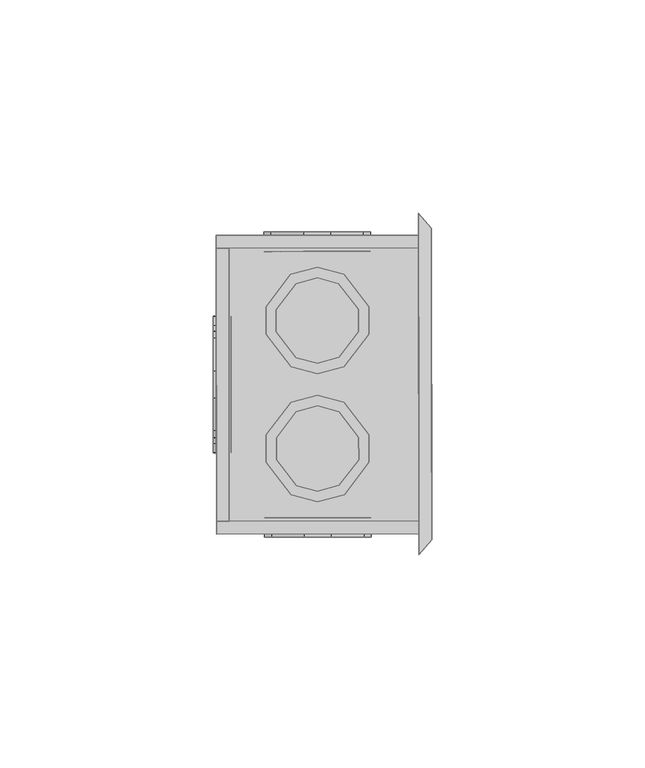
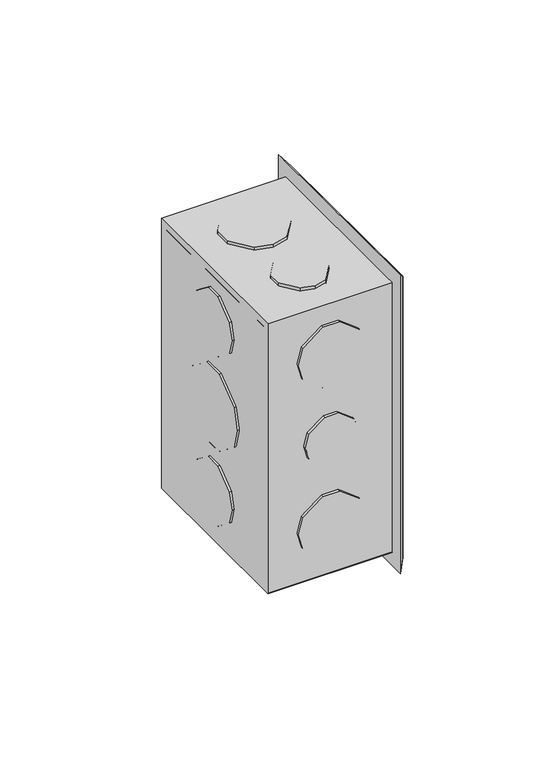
"""IFC4 building model written with IfcOpenShell, lengths in millimetres: proxy geometry,  211169 :  211169."""

import ifcopenshell
import ifcopenshell.guid

model = None  # the IFC model being written
_history = None  # IfcOwnerHistory: only IFC2X3 demands one
_inside = {}  # id of a spatial element -> (the spatial element, [elements in it])
_under = {}  # id of a project, library or spatial element -> (it, [spatial elements below it])
_declared = {}  # id of a project -> (the project, [libraries it declares])
_typed = {}  # id of a type object -> (the type object, [elements of that type])
_made_of = {}  # id of a material, layer set ... -> (it, [elements and type objects made of it])


def new_model(schema):
    """Start an empty IFC model of exactly this schema.

    Asked for "IFC4X3", IfcOpenShell would pick the latest addendum, in which some entities
    have other attributes; the version numbers below select the first issue.
    IFC2X3 requires an IfcOwnerHistory on every rooted entity: one is made here for all.
    """
    global model, _history
    if schema == "IFC4X3":
        model = ifcopenshell.file(schema_version=(4, 3, 0, 0))
    else:
        model = ifcopenshell.file(schema=schema)
    _inside.clear()
    _under.clear()
    _declared.clear()
    _typed.clear()
    _made_of.clear()
    _history = None
    if model.schema == "IFC2X3":
        org = make("IfcOrganization", Name="unknown")
        user = make(
            "IfcPersonAndOrganization",
            ThePerson=make("IfcPerson", FamilyName="unknown"),
            TheOrganization=org,
        )
        app = make(
            "IfcApplication",
            ApplicationDeveloper=org,
            Version="unknown",
            ApplicationFullName="unknown",
            ApplicationIdentifier="unknown",
        )
        _history = make(
            "IfcOwnerHistory",
            OwningUser=user,
            OwningApplication=app,
            ChangeAction="ADDED",
            CreationDate=0,
        )
    return model


def make(cls, **values):
    """One entity of the class cls with the attributes given. An attribute that is None is left unset."""
    return model.create_entity(
        cls, **{name: value for name, value in values.items() if value is not None}
    )


def rooted(cls, **values):
    """An entity with a GlobalId (a new one), such as an element, a storey or a relation."""
    return make(cls, GlobalId=ifcopenshell.guid.new(), OwnerHistory=_history, **values)


def si_unit(unit_type, name, prefix=None):
    """IfcSIUnit, for example si_unit("LENGTHUNIT", "METRE", prefix="MILLI")."""
    return make("IfcSIUnit", UnitType=unit_type, Prefix=prefix, Name=name)


def assignment(units):
    """IfcUnitAssignment: the units of a project."""
    return None if units is None else make("IfcUnitAssignment", Units=units)


def point(xyz):
    """IfcCartesianPoint."""
    return None if xyz is None else make("IfcCartesianPoint", Coordinates=xyz)


def direction(xyz):
    """IfcDirection."""
    return None if xyz is None else make("IfcDirection", DirectionRatios=xyz)


def frame(location, z_axis=None, x_axis=None):
    """IfcAxis2Placement3D, a coordinate frame: its origin and axes. An axis left out is left unset."""
    return make(
        "IfcAxis2Placement3D",
        Location=point(location),
        Axis=direction(z_axis),
        RefDirection=direction(x_axis),
    )


def origin():
    """The frame at (0, 0, 0) with its axes left unset."""
    return frame((0.0, 0.0, 0.0))


def place(relative_to, where):
    """IfcLocalPlacement: puts the frame where relative to a parent placement (None: the world)."""
    return make(
        "IfcLocalPlacement", PlacementRelTo=relative_to, RelativePlacement=where
    )


def context(
    kind, dimensions, precision=None, world=None, true_north=None, identifier=None
):
    """IfcGeometricRepresentationContext, for example the 3D "Model" context."""
    return make(
        "IfcGeometricRepresentationContext",
        ContextIdentifier=identifier,
        ContextType=kind,
        CoordinateSpaceDimension=dimensions,
        Precision=precision,
        WorldCoordinateSystem=world,
        TrueNorth=true_north,
    )


def project(units=None, contexts=None):
    """IfcProject with its units and contexts."""
    return rooted(
        "IfcProject",
        Name="project",
        RepresentationContexts=contexts,
        UnitsInContext=assignment(units),
    )


def spatial(cls, under=None, at=None, **own):
    """A site, building, storey or space (cls), placed at a placement, below another one or the project."""
    s = rooted(cls, ObjectPlacement=at, **own)
    if under is not None:
        _under.setdefault(under.id(), (under, []))[1].append(s)
    return s


def point_list(points):
    """IfcCartesianPointList2D or 3D."""
    cls = (
        "IfcCartesianPointList2D" if len(points[0]) == 2 else "IfcCartesianPointList3D"
    )
    return make(cls, CoordList=points)


def triangles(points, corners, closed=None, point_numbers=None):
    """IfcTriangulatedFaceSet: each triangle names its three corners, points numbered from 1."""
    return make(
        "IfcTriangulatedFaceSet",
        Coordinates=point_list(points),
        Closed=closed,
        CoordIndex=corners,
        PnIndex=point_numbers,
    )


def shape(context_of_items, identifier, shape_type, items):
    """IfcShapeRepresentation: the items that make up one representation, for example the "Body"."""
    return make(
        "IfcShapeRepresentation",
        ContextOfItems=context_of_items,
        RepresentationIdentifier=identifier,
        RepresentationType=shape_type,
        Items=items,
    )


def source(mapping_origin, context_of_items, identifier, shape_type, items):
    """IfcRepresentationMap: a shape defined once, which mapped items show again and again."""
    return make(
        "IfcRepresentationMap",
        MappingOrigin=mapping_origin,
        MappedRepresentation=shape(context_of_items, identifier, shape_type, items),
    )


def transform(
    local_origin,
    x_axis=None,
    y_axis=None,
    z_axis=None,
    scale=None,
    scale2=None,
    scale3=None,
    uniform=True,
):
    """IfcCartesianTransformationOperator3D, or its non-uniform kind. x_axis, y_axis, z_axis: its Axis1, 2, 3."""
    if uniform:
        return make(
            "IfcCartesianTransformationOperator3D",
            Axis1=direction(x_axis),
            Axis2=direction(y_axis),
            LocalOrigin=point(local_origin),
            Scale=scale,
            Axis3=direction(z_axis),
        )
    return make(
        "IfcCartesianTransformationOperator3DnonUniform",
        Axis1=direction(x_axis),
        Axis2=direction(y_axis),
        LocalOrigin=point(local_origin),
        Scale=scale,
        Axis3=direction(z_axis),
        Scale2=scale2,
        Scale3=scale3,
    )


def mapped(mapping_source, mapping_target):
    """IfcMappedItem: shows the shape of a source again, moved by a transform."""
    return make(
        "IfcMappedItem", MappingSource=mapping_source, MappingTarget=mapping_target
    )


def made_of(thing, what):
    """Note that an element or type object is made of a material, layer set ...; save() writes the relation."""
    if what is not None:
        _made_of.setdefault(what.id(), (what, []))[1].append(thing)
    return thing


def element(
    cls,
    number,
    at=None,
    inside=None,
    cuts=None,
    type_object=None,
    material=None,
    context=None,
    identifier="Body",
    shape_type=None,
    held_by="IfcProductDefinitionShape",
    body=None,
    shapes=None,
    **own,
):
    """One element of the class cls, such as IfcWall. Its Tag is "e" and its number.

    at: its placement. inside: the storey or other place that contains it. cuts: it is an
    opening in that element (IfcRelVoidsElement). A single representation is given by context,
    identifier, shape_type and body (its items); several are given by shapes. held_by: the class
    of the entity that holds the representations. save() writes the other relations.
    """
    e = rooted(cls, Tag="e%d" % number, ObjectPlacement=at, **own)
    if body is not None:
        shapes = [shape(context, identifier, shape_type, body)]
    if shapes is not None:
        e.Representation = make(held_by, Representations=shapes)
    if inside is not None:
        _inside.setdefault(inside.id(), (inside, []))[1].append(e)
    if cuts is not None:
        rooted(
            "IfcRelVoidsElement", RelatingBuildingElement=cuts, RelatedOpeningElement=e
        )
    if type_object is not None:
        _typed.setdefault(type_object.id(), (type_object, []))[1].append(e)
    return made_of(e, material)


def aggregate(whole, parts):
    """IfcRelAggregates: a whole, such as a stair, and the parts it consists of."""
    return rooted("IfcRelAggregates", RelatingObject=whole, RelatedObjects=parts)


def save(model, path):
    """Write the relations noted so far, then the file.

    IfcRelAggregates (storeys below a building ...), IfcRelContainedInSpatialStructure (elements
    in a storey), IfcRelDefinesByType, IfcRelAssociatesMaterial and IfcRelDeclares: one each for
    every whole, place, type object, material and project.
    """
    for whole, parts in _under.values():
        aggregate(whole, parts)
    for where, things in _inside.values():
        rooted(
            "IfcRelContainedInSpatialStructure",
            RelatedElements=things,
            RelatingStructure=where,
        )
    for kind, things in _typed.values():
        rooted("IfcRelDefinesByType", RelatedObjects=things, RelatingType=kind)
    for what, things in _made_of.values():
        rooted("IfcRelAssociatesMaterial", RelatedObjects=things, RelatingMaterial=what)
    for by, libraries in _declared.values():
        rooted("IfcRelDeclares", RelatingContext=by, RelatedDefinitions=libraries)
    model.write(path)


def generic_models_f4a41948(model_context):
    return source(origin(), model_context, "Body", "Tessellation", [
        triangles([(6595.0451202, 33599.7328308, 1749.1000683), (6600.0459778, 33598.400354, 1749.1000683), (6590.3709869, 33610.9763306, 1749.1000683), (6590.3768005, 33605.7999023, 1749.1000683), (6595.0218658, 33617.0550293, 1749.1000683), (6600.0198166, 33618.3991333, 1749.1000683), (6605.0450912, 33599.7467834, 1749.1000683), (6609.6959702, 33605.8231567, 1749.1000683), (6609.6889938, 33611.0019104, 1749.1000683), (6605.0218369, 33617.0666565, 1749.1000683), (6593.8079865, 33589.2171936, 1749.1000683), (6593.8370544, 33567.5673523, 1749.1000683), (6606.3078049, 33589.2334717, 1749.1000683), (6588.0031082, 33575.1482849, 1749.1000683), (6587.9938065, 33581.6199829, 1749.1000683), (6600.0889984, 33565.9000122, 1749.1000683), (6606.3368729, 33567.5836304, 1749.1000683), (6612.1510529, 33575.1808411, 1749.1000683), (6600.0558609, 33590.9008118, 1749.1000683), (6612.1417511, 33581.6502136, 1749.1000683), (6600.0198166, 33618.3991333, 1744.8000401), (6609.6959702, 33605.8231567, 1744.8000401), (6600.0459778, 33598.400354, 1744.8000401), (6609.6889938, 33611.0019104, 1744.8000401), (6605.0218369, 33617.0666565, 1744.8000401), (6605.0450912, 33599.7467834, 1744.8000401), (6595.0451202, 33599.7328308, 1744.8000401), (6590.3768005, 33605.7999023, 1744.8000401), (6590.3709869, 33610.9763306, 1744.8000401), (6595.0218658, 33617.0550293, 1744.8000401), (6593.8370544, 33567.5673523, 1744.8000401), (6606.3078049, 33589.2334717, 1744.8000401), (6612.1510529, 33575.1808411, 1744.8000401), (6612.1417511, 33581.6502136, 1744.8000401), (6600.0558609, 33590.9008118, 1744.8000401), (6593.8079865, 33589.2171936, 1744.8000401), (6606.3368729, 33567.5836304, 1744.8000401), (6588.0031082, 33575.1482849, 1744.8000401), (6587.9938065, 33581.6199829, 1744.8000401), (6600.0889984, 33565.9000122, 1744.8000401), (6593.7969406, 33597.5678467, 1855.1999874), (6600.0500473, 33595.9005066, 1855.1999874), (6587.9629944, 33605.1487793, 1855.1999874), (6593.7690353, 33619.217688, 1855.1999874), (6587.9548553, 33611.6181519, 1855.1999874), (6606.296759, 33597.5841248, 1855.1999874), (6612.1121017, 33605.1813354, 1855.1999874), (6606.2688538, 33619.2339661, 1855.1999874), (6600.0169098, 33620.8989807, 1855.1999874), (6612.1028, 33611.650708, 1855.1999874), (6590.409938, 33580.9758362, 1855.1999874), (6595.0840714, 33569.7323364, 1855.1999874), (6605.0840424, 33569.7462891, 1855.1999874), (6590.4169144, 33575.799408, 1855.1999874), (6595.060817, 33587.0545349, 1855.1999874), (6600.0587677, 33588.4009644, 1855.1999874), (6600.0860916, 33568.3998596, 1855.1999874), (6609.7349213, 33575.8249878, 1855.1999874), (6609.7279449, 33581.001416, 1855.1999874), (6605.060788, 33587.0661621, 1855.1999874), (6612.1121017, 33605.1813354, 1850.9999531), (6606.296759, 33597.5841248, 1850.9999531), (6606.2688538, 33619.2339661, 1850.9999531), (6612.1028, 33611.650708, 1850.9999531), (6600.0169098, 33620.8989807, 1850.9999531), (6593.7690353, 33619.217688, 1850.9999531), (6600.0500473, 33595.9005066, 1850.9999531), (6593.7969406, 33597.5678467, 1850.9999531), (6587.9629944, 33605.1487793, 1850.9999531), (6587.9548553, 33611.6181519, 1850.9999531), (6590.409938, 33580.9758362, 1850.9999531), (6609.7279449, 33581.001416, 1850.9999531), (6609.7349213, 33575.8249878, 1850.9999531), (6605.060788, 33587.0661621, 1850.9999531), (6600.0587677, 33588.4009644, 1850.9999531), (6605.0840424, 33569.7462891, 1850.9999531), (6595.0840714, 33569.7323364, 1850.9999531), (6595.060817, 33587.0545349, 1850.9999531), (6590.4169144, 33575.799408, 1850.9999531), (6600.0860916, 33568.3998596, 1850.9999531), (6596.8641953, 33557.5958679, 1846.0739456), (6589.2739609, 33557.5865662, 1840.2500278), (6603.3347305, 33557.6028442, 1846.0739456), (6596.8641953, 33557.5958679, 1821.926001), (6610.9249649, 33557.6144714, 1840.2500278), (6612.5998627, 33557.6167969, 1833.9999733), (6587.6002258, 33557.5842407, 1833.9999733), (6589.2739609, 33557.5865662, 1827.7500641), (6610.9249649, 33557.6144714, 1827.7500641), (6603.3347305, 33557.6028442, 1821.926001), (6610.1000153, 33557.612146, 1800.0000137), (6597.5118301, 33557.5958679, 1809.6590172), (6590.1000732, 33557.5865662, 1800.0000137), (6602.6882584, 33557.6028442, 1809.6590172), (6608.7599808, 33557.612146, 1804.9999992), (6591.438945, 33557.5888916, 1804.9999992), (6591.438945, 33557.5888916, 1795.0000282), (6597.5118301, 33557.5958679, 1790.3410103), (6608.7599808, 33557.612146, 1795.0000282), (6602.6882584, 33557.6028442, 1790.3410103), (6610.9249649, 33557.6144714, 1772.2499634), (6596.8641953, 33557.5958679, 1778.0740265), (6587.6002258, 33557.5842407, 1766.0000542), (6603.3347305, 33557.6028442, 1778.0740265), (6612.5998627, 33557.6167969, 1766.0000542), (6610.9249649, 33557.6144714, 1759.7499996), (6589.2739609, 33557.5865662, 1772.2499634), (6589.2739609, 33557.5865662, 1759.7499996), (6603.3347305, 33557.6028442, 1753.9259365), (6596.8641953, 33557.5958679, 1753.9259365), (6589.2681473, 33562.1862854, 1827.7500641), (6587.5938309, 33562.18396, 1833.9999733), (6596.8578003, 33562.1955872, 1821.926001), (6610.9191513, 33562.2141907, 1827.7500641), (6603.3289169, 33562.2048889, 1821.926001), (6612.5940491, 33562.2165161, 1833.9999733), (6603.3289169, 33562.2048889, 1846.0739456), (6589.2681473, 33562.1862854, 1840.2500278), (6596.8578003, 33562.1955872, 1846.0739456), (6610.9191513, 33562.2141907, 1840.2500278), (6591.4331314, 33562.1886108, 1795.0000282), (6590.0942596, 33562.1862854, 1800.0000137), (6608.7541672, 33562.2118652, 1795.0000282), (6597.5060165, 33562.1979126, 1790.3410103), (6602.6818634, 33562.2025635, 1790.3410103), (6610.0942017, 33562.2118652, 1800.0000137), (6597.5060165, 33562.1979126, 1809.6590172), (6602.6818634, 33562.2025635, 1809.6590172), (6608.7541672, 33562.2118652, 1804.9999992), (6591.4331314, 33562.1886108, 1804.9999992), (6589.2681473, 33562.1862854, 1759.7499996), (6587.5938309, 33562.18396, 1766.0000542), (6610.9191513, 33562.2141907, 1759.7499996), (6603.3289169, 33562.2048889, 1753.9259365), (6596.8578003, 33562.1955872, 1753.9259365), (6589.2681473, 33562.1862854, 1772.2499634), (6610.9191513, 33562.2141907, 1772.2499634), (6596.8578003, 33562.1955872, 1778.0740265), (6612.5940491, 33562.2165161, 1766.0000542), (6603.3289169, 33562.2048889, 1778.0740265), (6596.7711777, 33629.1961487, 1821.926001), (6589.1809433, 33629.1868469, 1827.7500641), (6603.2411316, 33629.203125, 1821.926001), (6596.7711777, 33629.1961487, 1846.0739456), (6610.8307846, 33629.2147522, 1827.7500641), (6612.5062637, 33629.2170776, 1833.9999733), (6587.5060455, 33629.1845215, 1833.9999733), (6589.1809433, 33629.1868469, 1840.2500278), (6610.8307846, 33629.2147522, 1840.2500278), (6603.2411316, 33629.203125, 1846.0739456), (6610.005835, 33629.2124268, 1800.0000137), (6597.4182312, 33629.1961487, 1790.3410103), (6597.4182312, 33629.1961487, 1809.6590172), (6608.6658005, 33629.2101013, 1795.0000282), (6602.5940781, 33629.203125, 1790.3410103), (6591.3459274, 33629.1891724, 1795.0000282), (6590.0058929, 33629.1868469, 1800.0000137), (6591.3459274, 33629.1891724, 1804.9999992), (6602.5940781, 33629.203125, 1809.6590172), (6608.6658005, 33629.2101013, 1804.9999992), (6596.7711777, 33629.1961487, 1753.9259365), (6589.1809433, 33629.1868469, 1759.7499996), (6603.2411316, 33629.203125, 1753.9259365), (6612.5062637, 33629.2170776, 1766.0000542), (6610.8307846, 33629.2147522, 1759.7499996), (6610.8307846, 33629.2147522, 1772.2499634), (6589.1809433, 33629.1868469, 1772.2499634), (6596.7711777, 33629.1961487, 1778.0740265), (6603.2411316, 33629.203125, 1778.0740265), (6587.5060455, 33629.1845215, 1766.0000542), (6589.1867569, 33624.5871277, 1840.2500278), (6587.5118591, 33624.5848022, 1833.9999733), (6596.7769913, 33624.5964294, 1846.0739456), (6610.8371796, 33624.615033, 1840.2500278), (6603.2469452, 33624.6034058, 1846.0739456), (6612.5120773, 33624.615033, 1833.9999733), (6603.2469452, 33624.6034058, 1821.926001), (6589.1867569, 33624.5871277, 1827.7500641), (6596.7769913, 33624.5964294, 1821.926001), (6610.8371796, 33624.615033, 1827.7500641), (6597.4240448, 33624.5964294, 1809.6590172), (6591.351741, 33624.5894531, 1804.9999992), (6597.4240448, 33624.5964294, 1790.3410103), (6602.5998917, 33624.6034058, 1809.6590172), (6610.0122299, 33624.6127075, 1800.0000137), (6608.6721954, 33624.6103821, 1804.9999992), (6590.0122879, 33624.5871277, 1800.0000137), (6608.6721954, 33624.6103821, 1795.0000282), (6602.5998917, 33624.6034058, 1790.3410103), (6591.351741, 33624.5894531, 1795.0000282), (6596.7769913, 33624.5964294, 1778.0740265), (6589.1867569, 33624.5871277, 1772.2499634), (6603.2469452, 33624.6034058, 1753.9259365), (6610.8371796, 33624.615033, 1772.2499634), (6603.2469452, 33624.6034058, 1778.0740265), (6589.1867569, 33624.5871277, 1759.7499996), (6587.5118591, 33624.5848022, 1766.0000542), (6596.7769913, 33624.5964294, 1753.9259365), (6612.5120773, 33624.615033, 1766.0000542), (6610.8371796, 33624.615033, 1759.7499996), (6575.6172363, 33582.5431824, 1827.7500641), (6575.6189804, 33580.868866, 1833.9999733), (6575.6067719, 33590.1334167, 1821.926001), (6575.5887497, 33604.1930237, 1827.7500641), (6575.5992142, 33596.6027893, 1821.926001), (6575.6172363, 33582.5431824, 1840.2500278), (6575.6067719, 33590.1334167, 1846.0739456), (6575.5992142, 33596.6027893, 1846.0739456), (6575.5870056, 33605.8673401, 1833.9999733), (6575.5887497, 33604.1930237, 1840.2500278), (6575.6207245, 33579.5131348, 1792.000066), (6575.6242126, 33577.3690796, 1800.0000137), (6575.6079346, 33589.2264954, 1784.5449978), (6575.5852615, 33607.2230713, 1792.000066), (6575.5980515, 33597.5097107, 1784.5449978), (6575.6207245, 33579.5131348, 1807.9999615), (6575.6079346, 33589.2264954, 1815.4550297), (6575.5980515, 33597.5097107, 1815.4550297), (6575.5817734, 33609.3671265, 1800.0000137), (6575.5852615, 33607.2230713, 1807.9999615), (6575.6172363, 33582.5431824, 1759.7499996), (6575.6189804, 33580.868866, 1766.0000542), (6575.5992142, 33596.6027893, 1753.9259365), (6575.6067719, 33590.1334167, 1753.9259365), (6575.5887497, 33604.1930237, 1759.7499996), (6575.5870056, 33605.8673401, 1766.0000542), (6575.5992142, 33596.6027893, 1778.0740265), (6575.6067719, 33590.1334167, 1778.0740265), (6575.5887497, 33604.1930237, 1772.2499634), (6575.6172363, 33582.5431824, 1772.2499634), (6579.8070969, 33590.1380676, 1846.0739456), (6579.81698, 33582.5478333, 1840.2500278), (6579.7989578, 33596.6097656, 1846.0739456), (6579.7890747, 33604.2, 1827.7500641), (6579.7890747, 33604.2, 1840.2500278), (6579.7867493, 33605.8743164, 1833.9999733), (6579.8187241, 33580.8735168, 1833.9999733), (6579.81698, 33582.5478333, 1827.7500641), (6579.8070969, 33590.1380676, 1821.926001), (6579.7989578, 33596.6097656, 1821.926001), (6579.8082596, 33589.2311462, 1815.4550297), (6579.8210495, 33579.5177856, 1807.9999615), (6579.7820984, 33609.3741028, 1800.0000137), (6579.7977951, 33597.5143616, 1815.4550297), (6579.7850052, 33607.2300476, 1807.9999615), (6579.8239563, 33577.3737305, 1800.0000137), (6579.8210495, 33579.5177856, 1792.000066), (6579.8082596, 33589.2311462, 1784.5449978), (6579.7850052, 33607.2300476, 1792.000066), (6579.7977951, 33597.5143616, 1784.5449978), (6579.8187241, 33580.8735168, 1766.0000542), (6579.7989578, 33596.6097656, 1778.0740265), (6579.8070969, 33590.1380676, 1778.0740265), (6579.7867493, 33605.8743164, 1766.0000542), (6579.7890747, 33604.2, 1772.2499634), (6579.7989578, 33596.6097656, 1753.9259365), (6579.81698, 33582.5478333, 1772.2499634), (6579.81698, 33582.5478333, 1759.7499996), (6579.8070969, 33590.1380676, 1753.9259365), (6579.7890747, 33604.2, 1759.7499996), (6575.6149109, 33584.3686523, 1788.2729679), (6579.8152359, 33584.3756287, 1788.2729679), (6579.7908188, 33602.3722046, 1788.2729679), (6575.5829361, 33608.2950989, 1795.9999672), (6579.7832611, 33608.3020752, 1795.9999672), (6575.5910751, 33602.3675537, 1788.2729679), (6579.8030273, 33593.3750793, 1784.5449978), (6579.8222122, 33578.4899414, 1795.8319542), (6575.6218872, 33578.4411072, 1795.9999672), (6575.6032837, 33593.368103, 1784.5449978), (6575.5910751, 33602.3675537, 1811.7270596), (6579.7908188, 33602.3722046, 1811.7270596), (6579.8152359, 33584.3756287, 1811.7270596), (6575.6218872, 33578.4411072, 1804.0000603), (6579.8222122, 33578.4457581, 1804.0000603), (6575.6149109, 33584.3686523, 1811.7270596), (6579.8030273, 33593.3750793, 1815.4550297), (6579.7838425, 33608.2578918, 1804.1679279), (6575.5829361, 33608.2950989, 1804.0000603), (6575.6032837, 33593.368103, 1815.4550297), (6576.3450989, 33561.3700562, 1748.7499443), (6576.3450989, 33561.3700562, 1851.2499378), (6576.2608017, 33625.3684753, 1851.2499378), (6576.2608017, 33625.3684753, 1748.7499443), (6579.2612, 33625.3731262, 1748.7499443), (6579.2612, 33625.3731262, 1851.2499378), (6579.3449158, 33561.3723816, 1851.2499378), (6579.3449158, 33561.3723816, 1748.7499443), (6576.3491684, 33558.3679138, 1854.2500454), (6576.3491684, 33558.3679138, 1745.7499821), (6576.2567322, 33628.3682922, 1854.2500454), (6576.2567322, 33628.3682922, 1745.7499821), (6623.7567398, 33628.4310791, 1854.2500454), (6623.7608093, 33625.4312622, 1851.2499378), (6623.7608093, 33625.4312622, 1748.7499443), (6623.8451065, 33561.4305176, 1851.2499378), (6623.7567398, 33628.4310791, 1745.7499821), (6623.8451065, 33561.4305176, 1748.7499443), (6623.849176, 33558.4307007, 1854.2500454), (6623.849176, 33558.4307007, 1745.7499821), (6626.7548126, 33630.0612122, 1856.5000534), (6626.8007401, 33594.8540588, 1804.8299515), (6626.7972519, 33597.8910828, 1802.5000065), (6626.8042282, 33592.2658447, 1804.8299515), (6626.7960892, 33598.5608093, 1800.0000137), (6626.7548126, 33630.0612122, 1743.4999741), (6626.7972519, 33597.8910828, 1797.500021), (6626.8007401, 33594.8540588, 1795.1699306), (6626.8042282, 33592.2658447, 1795.1699306), (6626.8501556, 33557.0610168, 1856.5000534), (6626.8077164, 33589.2311462, 1802.5000065), (6626.8088791, 33588.5614197, 1800.0000137), (6626.8077164, 33589.2311462, 1797.500021), (6626.8501556, 33557.0610168, 1743.4999741), (6623.7509262, 33633.5214661, 1740.0359413), (6623.8009232, 33594.8517334, 1795.1699306), (6623.7968536, 33597.8864319, 1797.500021), (6623.80383, 33592.2635193, 1795.1699306), (6623.7962723, 33598.5561584, 1800.0000137), (6623.7509262, 33633.5214661, 1860.0360294), (6623.7968536, 33597.8864319, 1802.5000065), (6623.8009232, 33594.8517334, 1804.8299515), (6623.80383, 33592.2635193, 1804.8299515), (6623.8549896, 33553.521698, 1740.0359413), (6623.8078995, 33589.2264954, 1797.500021), (6623.8090622, 33588.5567688, 1800.0000137), (6623.8078995, 33589.2264954, 1802.5000065), (6623.8549896, 33553.521698, 1860.0360294)], [[3, 1, 2], [1, 3, 4], [6, 5, 3], [3, 2, 7], [7, 8, 9], [6, 9, 10], [7, 9, 6], [7, 6, 3], [11, 12, 13], [14, 11, 15], [11, 14, 12], [12, 16, 17], [13, 12, 18], [13, 19, 11], [13, 18, 20], [18, 12, 17], [21, 22, 23], [24, 21, 25], [21, 24, 22], [22, 26, 23], [23, 27, 28], [29, 30, 21], [29, 23, 28], [23, 29, 21], [31, 32, 33], [33, 32, 34], [36, 35, 32], [33, 37, 31], [31, 36, 32], [36, 38, 39], [31, 38, 36], [31, 37, 40], [5, 21, 30], [3, 30, 29], [21, 5, 6], [5, 30, 3], [29, 4, 3], [1, 28, 27], [2, 27, 23], [28, 1, 4], [1, 27, 2], [28, 4, 29], [7, 23, 26], [8, 26, 22], [23, 7, 2], [7, 26, 8], [22, 9, 8], [10, 24, 25], [6, 25, 21], [24, 10, 9], [10, 25, 6], [24, 9, 22], [19, 35, 36], [11, 36, 39], [11, 19, 36], [15, 11, 39], [39, 38, 15], [14, 38, 31], [12, 31, 40], [12, 14, 31], [16, 12, 40], [38, 14, 15], [37, 33, 17], [40, 37, 16], [37, 17, 16], [17, 33, 18], [33, 34, 18], [32, 35, 13], [34, 32, 20], [32, 13, 20], [13, 35, 19], [34, 20, 18], [43, 41, 42], [43, 44, 45], [44, 43, 42], [42, 46, 44], [46, 47, 48], [46, 48, 49], [48, 47, 50], [46, 49, 44], [51, 52, 53], [52, 51, 54], [56, 55, 51], [53, 52, 57], [51, 58, 59], [60, 56, 51], [51, 59, 60], [58, 51, 53], [63, 61, 62], [61, 63, 64], [66, 65, 63], [66, 63, 62], [67, 68, 69], [66, 69, 70], [67, 69, 66], [67, 66, 62], [71, 72, 73], [74, 71, 75], [72, 71, 74], [73, 76, 77], [77, 71, 73], [71, 78, 75], [71, 77, 79], [76, 80, 77], [44, 65, 66], [45, 66, 70], [65, 44, 49], [44, 66, 45], [70, 43, 45], [41, 69, 68], [42, 68, 67], [69, 41, 43], [41, 68, 42], [69, 43, 70], [46, 67, 62], [47, 62, 61], [67, 46, 42], [46, 62, 47], [61, 50, 47], [48, 64, 63], [49, 63, 65], [64, 48, 50], [48, 63, 49], [64, 50, 61], [78, 71, 51], [75, 78, 55], [75, 55, 56], [55, 78, 51], [71, 54, 51], [77, 80, 57], [79, 77, 52], [79, 52, 54], [52, 77, 57], [79, 54, 71], [53, 80, 76], [58, 76, 73], [53, 57, 80], [58, 53, 76], [73, 59, 58], [60, 72, 74], [56, 74, 75], [60, 59, 72], [56, 60, 74], [72, 59, 73], [83, 81, 82], [83, 84, 85], [84, 86, 85], [84, 83, 82], [87, 88, 84], [89, 84, 90], [84, 89, 86], [84, 82, 87], [91, 92, 93], [94, 91, 95], [91, 94, 92], [92, 96, 93], [93, 97, 98], [99, 98, 100], [98, 99, 91], [93, 98, 91], [101, 102, 103], [102, 101, 104], [106, 105, 101], [103, 102, 107], [103, 108, 106], [108, 109, 106], [109, 108, 110], [103, 106, 101], [113, 111, 112], [113, 114, 115], [116, 114, 113], [113, 112, 117], [118, 119, 117], [120, 116, 113], [113, 117, 120], [112, 118, 117], [123, 121, 122], [124, 123, 125], [123, 124, 121], [122, 126, 123], [122, 127, 126], [126, 128, 129], [127, 128, 126], [127, 122, 130], [133, 131, 132], [131, 134, 135], [133, 134, 131], [133, 132, 136], [138, 137, 133], [137, 139, 133], [137, 138, 140], [136, 138, 133], [118, 87, 82], [119, 82, 81], [87, 118, 112], [119, 118, 82], [81, 117, 119], [120, 83, 85], [116, 85, 86], [83, 120, 117], [120, 85, 116], [83, 117, 81], [114, 86, 89], [115, 89, 90], [86, 114, 116], [114, 89, 115], [90, 113, 115], [111, 84, 88], [112, 88, 87], [84, 111, 113], [112, 111, 88], [90, 84, 113], [96, 92, 130], [93, 96, 122], [96, 130, 122], [130, 92, 127], [127, 92, 94], [95, 91, 129], [94, 95, 128], [95, 129, 128], [129, 91, 126], [94, 128, 127], [126, 91, 99], [123, 99, 100], [99, 123, 126], [100, 125, 123], [100, 98, 125], [124, 98, 97], [121, 97, 93], [97, 121, 124], [93, 122, 121], [98, 124, 125], [107, 102, 136], [132, 103, 107], [107, 136, 132], [136, 102, 138], [138, 102, 104], [137, 101, 105], [104, 101, 140], [101, 137, 140], [137, 105, 139], [104, 140, 138], [139, 105, 106], [133, 106, 109], [133, 139, 106], [109, 134, 133], [109, 110, 134], [135, 110, 108], [131, 108, 103], [108, 131, 135], [132, 131, 103], [110, 135, 134], [143, 141, 142], [143, 144, 145], [144, 146, 145], [144, 143, 142], [147, 148, 144], [149, 144, 150], [144, 149, 146], [144, 142, 147], [151, 152, 153], [152, 154, 155], [151, 154, 152], [152, 156, 157], [152, 158, 153], [151, 159, 160], [151, 153, 159], [152, 157, 158], [163, 161, 162], [163, 164, 165], [166, 164, 163], [163, 162, 167], [168, 163, 167], [166, 168, 169], [168, 166, 163], [167, 162, 170], [173, 171, 172], [173, 174, 175], [176, 174, 173], [173, 172, 177], [178, 179, 177], [180, 176, 173], [173, 177, 180], [172, 178, 177], [181, 182, 183], [184, 185, 186], [181, 183, 184], [183, 182, 187], [183, 185, 184], [183, 188, 185], [188, 183, 189], [183, 187, 190], [191, 192, 193], [191, 194, 195], [193, 194, 191], [196, 192, 197], [196, 198, 193], [199, 193, 200], [193, 199, 194], [193, 192, 196], [174, 146, 149], [175, 149, 150], [146, 174, 176], [175, 174, 149], [150, 173, 175], [171, 144, 148], [172, 148, 147], [144, 171, 173], [171, 148, 172], [144, 173, 150], [178, 147, 142], [179, 142, 141], [147, 178, 172], [178, 142, 179], [141, 177, 179], [180, 143, 145], [176, 145, 146], [143, 180, 177], [176, 180, 145], [141, 143, 177], [185, 151, 160], [186, 160, 159], [186, 185, 160], [184, 186, 159], [184, 159, 153], [181, 153, 158], [182, 158, 157], [182, 181, 158], [187, 182, 157], [153, 181, 184], [190, 156, 152], [187, 157, 156], [156, 190, 187], [190, 152, 183], [152, 155, 183], [188, 154, 151], [189, 155, 154], [154, 188, 189], [188, 151, 185], [155, 189, 183], [199, 164, 166], [194, 166, 169], [166, 194, 199], [195, 194, 169], [195, 169, 168], [191, 168, 167], [192, 167, 170], [192, 191, 167], [170, 197, 192], [168, 191, 195], [196, 162, 161], [170, 162, 197], [162, 196, 197], [196, 161, 198], [161, 163, 198], [165, 164, 200], [193, 163, 165], [165, 200, 193], [200, 164, 199], [163, 193, 198], [203, 201, 202], [203, 204, 205], [204, 203, 202], [202, 206, 204], [206, 207, 208], [209, 208, 210], [206, 208, 209], [206, 209, 204], [213, 211, 212], [213, 214, 215], [214, 213, 212], [212, 216, 214], [216, 217, 218], [219, 218, 220], [218, 219, 214], [218, 214, 216], [223, 221, 222], [221, 223, 224], [226, 225, 223], [223, 222, 227], [227, 222, 228], [226, 227, 229], [227, 226, 223], [228, 222, 230], [233, 231, 232], [233, 234, 235], [234, 236, 235], [237, 233, 232], [237, 238, 234], [234, 239, 240], [238, 239, 234], [237, 234, 233], [243, 241, 242], [244, 243, 245], [243, 244, 241], [242, 246, 243], [246, 247, 248], [249, 248, 250], [248, 249, 243], [248, 243, 246], [251, 252, 253], [252, 254, 255], [256, 254, 252], [253, 257, 251], [251, 258, 259], [256, 260, 254], [256, 251, 259], [256, 252, 251], [204, 236, 234], [205, 234, 240], [236, 204, 209], [205, 204, 234], [240, 203, 205], [201, 239, 238], [202, 238, 237], [239, 201, 203], [201, 238, 202], [239, 203, 240], [206, 237, 232], [207, 232, 231], [237, 206, 202], [207, 206, 232], [231, 208, 207], [210, 233, 235], [209, 235, 236], [233, 210, 208], [210, 235, 209], [233, 208, 231], [261, 248, 262], [262, 247, 211], [215, 263, 250], [243, 264, 219], [265, 214, 264], [266, 249, 263], [265, 249, 214], [264, 243, 265], [213, 267, 248], [249, 266, 214], [215, 266, 263], [211, 268, 269], [248, 261, 213], [262, 211, 261], [246, 269, 268], [268, 211, 247], [270, 215, 250], [246, 212, 269], [270, 250, 267], [267, 213, 270], [271, 244, 272], [272, 245, 220], [217, 273, 241], [246, 274, 212], [275, 216, 274], [276, 242, 273], [275, 242, 216], [274, 246, 275], [218, 277, 244], [242, 276, 216], [217, 276, 273], [220, 278, 279], [244, 271, 218], [272, 220, 271], [243, 279, 278], [278, 220, 245], [280, 217, 241], [243, 219, 279], [280, 241, 277], [277, 218, 280], [260, 256, 223], [254, 260, 225], [254, 225, 226], [223, 225, 260], [256, 224, 223], [258, 251, 222], [259, 258, 221], [259, 221, 224], [221, 258, 222], [259, 224, 256], [230, 251, 257], [228, 257, 253], [230, 222, 251], [228, 230, 257], [253, 227, 228], [229, 252, 255], [226, 255, 254], [229, 227, 252], [226, 229, 255], [252, 227, 253], [281, 282, 283], [283, 284, 281], [285, 286, 287], [287, 288, 285], [283, 282, 287], [287, 286, 283], [284, 283, 286], [286, 285, 284], [281, 284, 285], [285, 288, 281], [282, 281, 288], [288, 287, 282], [289, 282, 281], [283, 282, 289], [290, 281, 284], [289, 281, 290], [284, 283, 291], [291, 283, 289], [290, 284, 292], [292, 284, 291], [293, 294, 295], [296, 294, 293], [297, 295, 298], [293, 295, 297], [298, 296, 299], [299, 296, 293], [297, 298, 300], [300, 298, 299], [291, 289, 299], [299, 293, 291], [292, 291, 293], [293, 297, 292], [290, 292, 297], [297, 300, 290], [289, 290, 300], [300, 299, 289], [284, 281, 298], [298, 295, 284], [283, 284, 295], [295, 294, 283], [296, 282, 283], [283, 294, 296], [281, 282, 296], [296, 298, 281], [301, 302, 303], [304, 302, 301], [301, 303, 305], [306, 305, 307], [301, 305, 306], [307, 308, 306], [306, 308, 309], [311, 304, 310], [310, 304, 301], [312, 311, 310], [314, 309, 313], [312, 314, 313], [314, 312, 310], [309, 314, 306], [315, 316, 317], [318, 316, 315], [315, 317, 319], [320, 319, 321], [315, 319, 320], [321, 322, 320], [320, 322, 323], [325, 318, 324], [324, 318, 315], [326, 325, 324], [328, 323, 327], [326, 328, 327], [328, 326, 324], [323, 328, 320], [310, 301, 320], [328, 310, 320], [324, 310, 328], [324, 314, 310], [315, 314, 324], [315, 306, 314], [301, 306, 315], [320, 301, 315], [325, 326, 313], [309, 318, 325], [312, 313, 326], [309, 325, 313], [318, 309, 308], [307, 317, 316], [319, 317, 305], [316, 308, 307], [305, 317, 307], [318, 308, 316], [303, 321, 319], [322, 321, 302], [319, 305, 303], [302, 321, 303], [302, 304, 322], [327, 323, 311], [312, 326, 327], [304, 311, 323], [312, 327, 311], [322, 304, 323]], closed=False),
    ])


if __name__ == "__main__":
    model = new_model("IFC4")
    model_context = context("Model", 3, world=origin())
    ifc_project = project(units=[si_unit("LENGTHUNIT", "METRE", prefix="MILLI")], contexts=[model_context])
    site = spatial("IfcSite", under=ifc_project)
    building = spatial("IfcBuilding", under=site)
    placement = place(None, origin())
    generic_models_shape = generic_models_f4a41948(model_context)
    element("IfcBuildingElementProxy", 1, Name=" 211169 :  211169", ObjectType=" 211169 :  211169", at=placement, inside=building, context=model_context, shape_type="MappedRepresentation", body=[
        mapped(generic_models_shape, transform((0.0, 0.0, 0.0), x_axis=(1.0, 0.0, 0.0), y_axis=(0.0, 1.0, 0.0), z_axis=(0.0, 0.0, 1.0))),
    ])
    save(model, "model.ifc")
